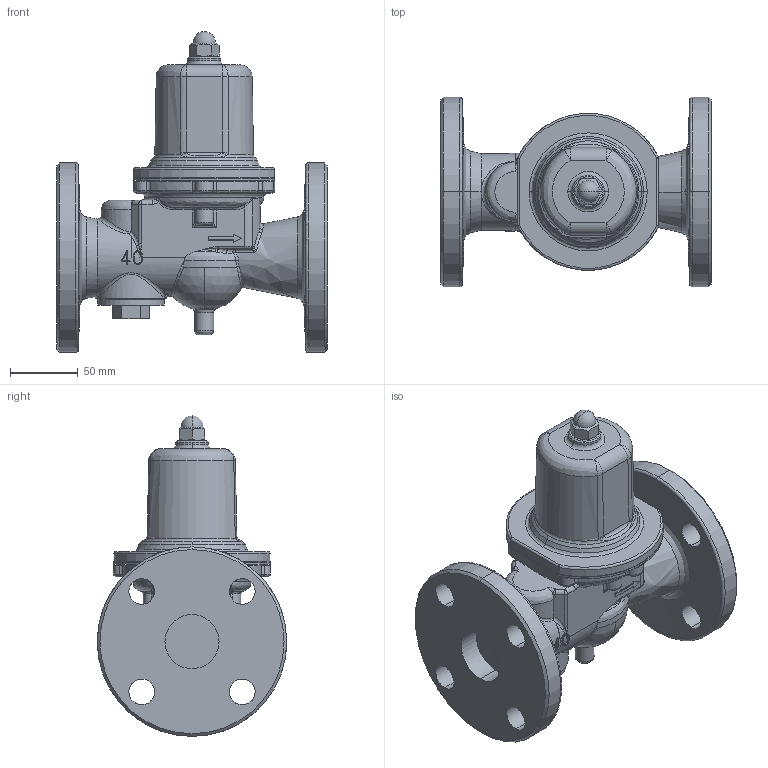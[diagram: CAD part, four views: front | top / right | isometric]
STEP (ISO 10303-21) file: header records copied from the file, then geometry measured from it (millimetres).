
FILE_DESCRIPTION( (''), '2;1');
FILE_NAME ('PC2091.19220.GD-29-NE 40A_25095.stp','2026-04-16T18:05:57',(''),(''),'spGate 21.9.4 (****-****-****-****)','','');
FILE_SCHEMA (('AUTOMOTIVE_DESIGN'));
Length unit declared in the file: millimetre
Products named in the file (6): Assembly; GD-26-NE ダイヤフラム 32-40A; GD-26-NE 保護筒 32-40A; GD-26-NE 六角袋ナット 32-50A; GD-26-NE ストレーナキャップ 32-50A; GD-27-NE 弁箱 40A
Assembly tree (5 placements, depth 2):
  Assembly
    GD-26-NE ダイヤフラム 32-40A
    GD-26-NE 保護筒 32-40A
    GD-26-NE 六角袋ナット 32-50A
    GD-26-NE ストレーナキャップ 32-50A
    GD-27-NE 弁箱 40A
Bounding box: 200 x 140 x 237 mm (x, y, z)
Volume: 1556790.9 mm3; surface area: 195160.3 mm2
Topology: 5 solids, 5 shells, 490 faces, 1208 edges, 690 vertices
Faces by surface type: bspline 231, cylinder 144, plane 87, sphere 28
Entity records: 33170 total; most frequent: CARTESIAN_POINT 14184, ORIENTED_EDGE 2310, COLOUR_RGB 1650, PRESENTATION_STYLE_ASSIGNMENT 1650, STYLED_ITEM 1650, DIRECTION 1622, EDGE_CURVE 1155, DRAUGHTING_PRE_DEFINED_CURVE_FONT 1155
